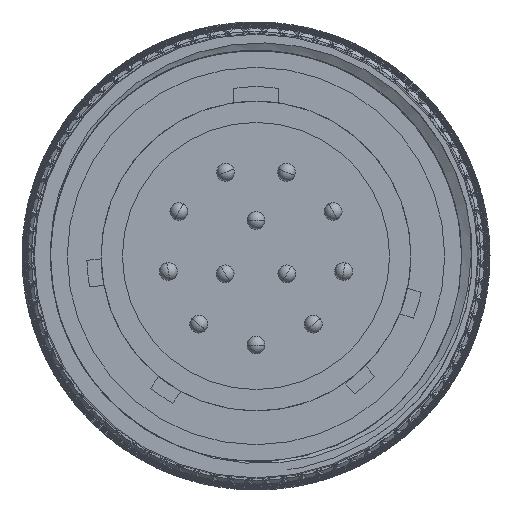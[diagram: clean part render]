
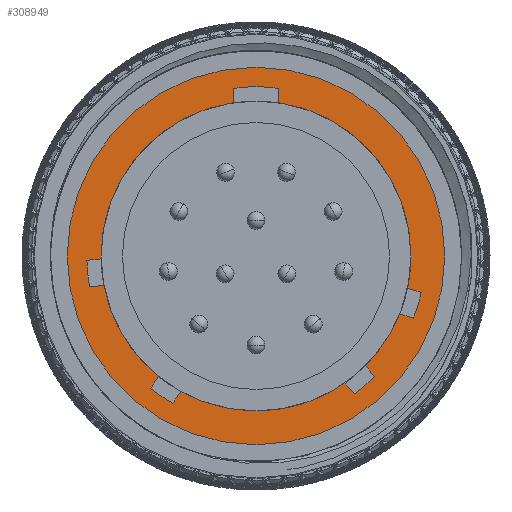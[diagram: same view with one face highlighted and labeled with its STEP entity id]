
A CAD part, front view. The second image highlights one B-rep face of the part: STEP entity #308949.
In plain terms, the highlighted planar face has unit normal (0, -1, 0).
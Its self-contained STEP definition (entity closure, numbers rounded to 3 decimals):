
#108140=CARTESIAN_POINT('',(11.3,-7.3,-11.309));
#108141=DIRECTION('',(0.,1.,0.));
#108142=DIRECTION('',(0.,0.,1.));
#108143=AXIS2_PLACEMENT_3D('',#108140,#108141,#108142);
#108145=CARTESIAN_POINT('',(11.3,-7.3,-11.309));
#108146=DIRECTION('',(0.,1.,0.));
#108147=DIRECTION('',(0.,0.,-1.));
#108148=AXIS2_PLACEMENT_3D('',#108145,#108146,#108147);
#108150=CARTESIAN_POINT('',(11.3,-7.3,-11.309));
#108151=DIRECTION('',(0.,-1.,0.));
#108152=DIRECTION('',(0.132,0.,0.991));
#108153=AXIS2_PLACEMENT_3D('',#108150,#108151,#108152);
#108155=CARTESIAN_POINT('',(11.3,-7.3,-11.309));
#108156=DIRECTION('',(0.,-1.,0.));
#108157=DIRECTION('',(-0.144,0.,0.99));
#108158=AXIS2_PLACEMENT_3D('',#108155,#108156,#108157);
#108160=CARTESIAN_POINT('',(11.3,-7.3,-11.309));
#108161=DIRECTION('',(0.,-1.,0.));
#108162=DIRECTION('',(-1.,0.,0.));
#108163=AXIS2_PLACEMENT_3D('',#108160,#108161,#108162);
#108165=DIRECTION('',(-0.995,0.,-0.105));
#108166=VECTOR('',#108165,0.803);
#108167=CARTESIAN_POINT('',(2.601,-7.3,-11.469));
#108168=LINE('',#108167,#108166);
#108169=CARTESIAN_POINT('',(11.3,-7.3,-11.309));
#108170=DIRECTION('',(0.,-1.,0.));
#108171=DIRECTION('',(-1.,0.,-0.026));
#108172=AXIS2_PLACEMENT_3D('',#108169,#108170,#108171);
#108174=DIRECTION('',(0.995,0.,0.105));
#108175=VECTOR('',#108174,0.803);
#108176=CARTESIAN_POINT('',(1.96,-7.3,-13.045));
#108177=LINE('',#108176,#108175);
#108178=CARTESIAN_POINT('',(11.3,-7.3,-11.309));
#108179=DIRECTION('',(0.,-1.,0.));
#108180=DIRECTION('',(-0.982,0.,-0.19));
#108181=AXIS2_PLACEMENT_3D('',#108178,#108179,#108180);
#108183=DIRECTION('',(-0.559,0.,-0.829));
#108184=VECTOR('',#108183,0.803);
#108185=CARTESIAN_POINT('',(5.831,-7.3,-18.076));
#108186=LINE('',#108185,#108184);
#108187=CARTESIAN_POINT('',(11.3,-7.3,-11.309));
#108188=DIRECTION('',(0.,-1.,0.));
#108189=DIRECTION('',(-0.623,0.,-0.782));
#108190=AXIS2_PLACEMENT_3D('',#108187,#108188,#108189);
#108192=DIRECTION('',(0.559,0.,0.829));
#108193=VECTOR('',#108192,0.803);
#108194=CARTESIAN_POINT('',(6.626,-7.3,-19.58));
#108195=LINE('',#108194,#108193);
#108196=CARTESIAN_POINT('',(11.3,-7.3,-11.309));
#108197=DIRECTION('',(0.,-1.,0.));
#108198=DIRECTION('',(-0.486,0.,-0.874));
#108199=AXIS2_PLACEMENT_3D('',#108196,#108197,#108198);
#108201=DIRECTION('',(0.643,0.,-0.766));
#108202=VECTOR('',#108201,0.803);
#108203=CARTESIAN_POINT('',(16.297,-7.3,-18.431));
#108204=LINE('',#108203,#108202);
#108205=CARTESIAN_POINT('',(11.3,-7.3,-11.309));
#108206=DIRECTION('',(0.,-1.,0.));
#108207=DIRECTION('',(0.58,0.,-0.814));
#108208=AXIS2_PLACEMENT_3D('',#108205,#108206,#108207);
#108210=DIRECTION('',(-0.643,0.,0.766));
#108211=VECTOR('',#108210,0.803);
#108212=CARTESIAN_POINT('',(17.962,-7.3,-18.082));
#108213=LINE('',#108212,#108211);
#108214=CARTESIAN_POINT('',(11.3,-7.3,-11.309));
#108215=DIRECTION('',(0.,-1.,0.));
#108216=DIRECTION('',(0.706,0.,-0.708));
#108217=AXIS2_PLACEMENT_3D('',#108214,#108215,#108216);
#108219=DIRECTION('',(0.956,0.,-0.292));
#108220=VECTOR('',#108219,0.803);
#108221=CARTESIAN_POINT('',(19.37,-7.3,-14.561));
#108222=LINE('',#108221,#108220);
#108223=CARTESIAN_POINT('',(11.3,-7.3,-11.309));
#108224=DIRECTION('',(0.,-1.,0.));
#108225=DIRECTION('',(0.93,0.,-0.367));
#108226=AXIS2_PLACEMENT_3D('',#108223,#108224,#108225);
#108228=DIRECTION('',(-0.956,0.,0.292));
#108229=VECTOR('',#108228,0.803);
#108230=CARTESIAN_POINT('',(20.576,-7.3,-13.361));
#108231=LINE('',#108230,#108229);
#108232=CARTESIAN_POINT('',(11.3,-7.3,-11.309));
#108233=DIRECTION('',(0.,-1.,0.));
#108234=DIRECTION('',(0.978,0.,-0.209));
#108235=AXIS2_PLACEMENT_3D('',#108232,#108233,#108234);
#108237=CARTESIAN_POINT('',(11.3,-7.3,-11.309));
#108238=DIRECTION('',(0.,-1.,0.));
#108239=DIRECTION('',(1.,0.,0.));
#108240=AXIS2_PLACEMENT_3D('',#108237,#108238,#108239);
#108246=DIRECTION('',(0.,0.,-1.));
#108247=VECTOR('',#108246,0.808);
#108248=CARTESIAN_POINT('',(12.55,-7.3,-1.892));
#108249=LINE('',#108248,#108247);
#108276=DIRECTION('',(0.,0.,1.));
#108277=VECTOR('',#108276,0.808);
#108278=CARTESIAN_POINT('',(10.05,-7.3,-2.699));
#108279=LINE('',#108278,#108277);
#109352=CARTESIAN_POINT('',(2.601,-7.3,-11.469));
#109353=VERTEX_POINT('',#109352);
#109354=CARTESIAN_POINT('',(2.6,-7.3,-11.309));
#109355=VERTEX_POINT('',#109354);
#109356=CARTESIAN_POINT('',(19.808,-7.3,-13.126));
#109357=CARTESIAN_POINT('',(20.,-7.3,-11.309));
#109358=VERTEX_POINT('',#109356);
#109359=VERTEX_POINT('',#109357);
#109364=CARTESIAN_POINT('',(19.37,-7.3,-14.561));
#109365=VERTEX_POINT('',#109364);
#109366=CARTESIAN_POINT('',(17.446,-7.3,-17.467));
#109367=VERTEX_POINT('',#109366);
#109372=CARTESIAN_POINT('',(16.297,-7.3,-18.431));
#109373=VERTEX_POINT('',#109372);
#109374=CARTESIAN_POINT('',(7.075,-7.3,-18.914));
#109375=VERTEX_POINT('',#109374);
#109380=CARTESIAN_POINT('',(5.831,-7.3,-18.076));
#109381=VERTEX_POINT('',#109380);
#109382=CARTESIAN_POINT('',(2.758,-7.3,-12.961));
#109383=VERTEX_POINT('',#109382);
#109408=CARTESIAN_POINT('',(1.96,-7.3,-13.045));
#109409=VERTEX_POINT('',#109408);
#109410=CARTESIAN_POINT('',(11.3,-7.3,-0.709));
#109411=CARTESIAN_POINT('',(11.3,-7.3,-21.909));
#109412=VERTEX_POINT('',#109410);
#109413=VERTEX_POINT('',#109411);
#109414=CARTESIAN_POINT('',(12.55,-7.3,-1.892));
#109415=CARTESIAN_POINT('',(12.55,-7.3,-2.699));
#109416=VERTEX_POINT('',#109414);
#109417=VERTEX_POINT('',#109415);
#109418=CARTESIAN_POINT('',(10.05,-7.3,-1.892));
#109419=VERTEX_POINT('',#109418);
#109420=CARTESIAN_POINT('',(10.05,-7.3,-2.699));
#109421=VERTEX_POINT('',#109420);
#109422=CARTESIAN_POINT('',(1.803,-7.3,-11.553));
#109423=VERTEX_POINT('',#109422);
#109424=CARTESIAN_POINT('',(5.382,-7.3,-18.741));
#109425=VERTEX_POINT('',#109424);
#109426=CARTESIAN_POINT('',(6.626,-7.3,-19.58));
#109427=VERTEX_POINT('',#109426);
#109428=CARTESIAN_POINT('',(16.813,-7.3,-19.046));
#109429=VERTEX_POINT('',#109428);
#109430=CARTESIAN_POINT('',(17.962,-7.3,-18.082));
#109431=VERTEX_POINT('',#109430);
#109432=CARTESIAN_POINT('',(20.137,-7.3,-14.795));
#109433=VERTEX_POINT('',#109432);
#109434=CARTESIAN_POINT('',(20.576,-7.3,-13.361));
#109435=VERTEX_POINT('',#109434);
#308894=CARTESIAN_POINT('',(11.3,-7.3,-11.309));
#308895=DIRECTION('',(0.,1.,0.));
#308896=DIRECTION('',(0.,0.,1.));
#308897=AXIS2_PLACEMENT_3D('',#308894,#308895,#308896);
#308898=PLANE('',#308897);
#308899=ORIENTED_EDGE('',*,*,#308874,.T.);
#308900=ORIENTED_EDGE('',*,*,#308888,.T.);
#308901=EDGE_LOOP('',(#308899,#308900));
#308902=FACE_OUTER_BOUND('',#308901,.F.);
#308904=ORIENTED_EDGE('',*,*,#308903,.F.);
#308906=ORIENTED_EDGE('',*,*,#308905,.T.);
#308908=ORIENTED_EDGE('',*,*,#308907,.F.);
#308910=ORIENTED_EDGE('',*,*,#308909,.T.);
#308912=ORIENTED_EDGE('',*,*,#308911,.T.);
#308914=ORIENTED_EDGE('',*,*,#308913,.T.);
#308916=ORIENTED_EDGE('',*,*,#308915,.T.);
#308918=ORIENTED_EDGE('',*,*,#308917,.T.);
#308920=ORIENTED_EDGE('',*,*,#308919,.T.);
#308922=ORIENTED_EDGE('',*,*,#308921,.T.);
#308924=ORIENTED_EDGE('',*,*,#308923,.T.);
#308926=ORIENTED_EDGE('',*,*,#308925,.T.);
#308928=ORIENTED_EDGE('',*,*,#308927,.T.);
#308930=ORIENTED_EDGE('',*,*,#308929,.T.);
#308932=ORIENTED_EDGE('',*,*,#308931,.T.);
#308934=ORIENTED_EDGE('',*,*,#308933,.T.);
#308936=ORIENTED_EDGE('',*,*,#308935,.T.);
#308938=ORIENTED_EDGE('',*,*,#308937,.T.);
#308940=ORIENTED_EDGE('',*,*,#308939,.T.);
#308942=ORIENTED_EDGE('',*,*,#308941,.T.);
#308944=ORIENTED_EDGE('',*,*,#308943,.T.);
#308946=ORIENTED_EDGE('',*,*,#308945,.T.);
#308947=EDGE_LOOP('',(#308904,#308906,#308908,#308910,#308912,#308914,#308916,
#308918,#308920,#308922,#308924,#308926,#308928,#308930,#308932,#308934,#308936,
#308938,#308940,#308942,#308944,#308946));
#308948=FACE_BOUND('',#308947,.F.);
#108144=CIRCLE('',#108143,10.6);
#108149=CIRCLE('',#108148,10.6);
#108154=CIRCLE('',#108153,9.5);
#108159=CIRCLE('',#108158,8.7);
#108164=CIRCLE('',#108163,8.7);
#108173=CIRCLE('',#108172,9.5);
#108182=CIRCLE('',#108181,8.7);
#108191=CIRCLE('',#108190,9.5);
#108200=CIRCLE('',#108199,8.7);
#108209=CIRCLE('',#108208,9.5);
#108218=CIRCLE('',#108217,8.7);
#108227=CIRCLE('',#108226,9.5);
#108236=CIRCLE('',#108235,8.7);
#108241=CIRCLE('',#108240,8.7);
#308874=EDGE_CURVE('',#109412,#109413,#108144,.T.);
#308888=EDGE_CURVE('',#109413,#109412,#108149,.T.);
#308903=EDGE_CURVE('',#109416,#109417,#108249,.T.);
#308905=EDGE_CURVE('',#109416,#109419,#108154,.T.);
#308907=EDGE_CURVE('',#109421,#109419,#108279,.T.);
#308909=EDGE_CURVE('',#109421,#109355,#108159,.T.);
#308911=EDGE_CURVE('',#109355,#109353,#108164,.T.);
#308913=EDGE_CURVE('',#109353,#109423,#108168,.T.);
#308915=EDGE_CURVE('',#109423,#109409,#108173,.T.);
#308917=EDGE_CURVE('',#109409,#109383,#108177,.T.);
#308919=EDGE_CURVE('',#109383,#109381,#108182,.T.);
#308921=EDGE_CURVE('',#109381,#109425,#108186,.T.);
#308923=EDGE_CURVE('',#109425,#109427,#108191,.T.);
#308925=EDGE_CURVE('',#109427,#109375,#108195,.T.);
#308927=EDGE_CURVE('',#109375,#109373,#108200,.T.);
#308929=EDGE_CURVE('',#109373,#109429,#108204,.T.);
#308931=EDGE_CURVE('',#109429,#109431,#108209,.T.);
#308933=EDGE_CURVE('',#109431,#109367,#108213,.T.);
#308935=EDGE_CURVE('',#109367,#109365,#108218,.T.);
#308937=EDGE_CURVE('',#109365,#109433,#108222,.T.);
#308939=EDGE_CURVE('',#109433,#109435,#108227,.T.);
#308941=EDGE_CURVE('',#109435,#109358,#108231,.T.);
#308943=EDGE_CURVE('',#109358,#109359,#108236,.T.);
#308945=EDGE_CURVE('',#109359,#109417,#108241,.T.);
#308949=ADVANCED_FACE('',(#308902,#308948),#308898,.F.);
